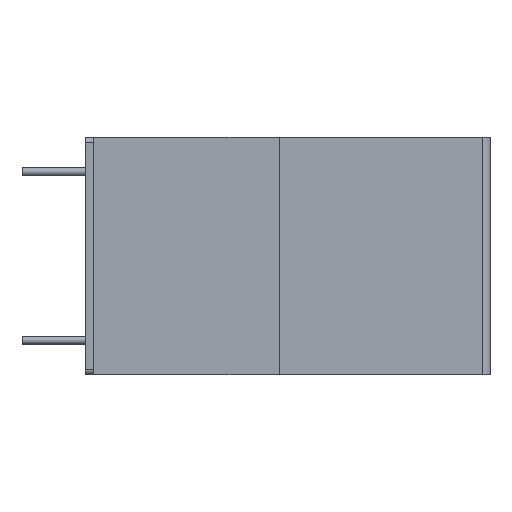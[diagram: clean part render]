
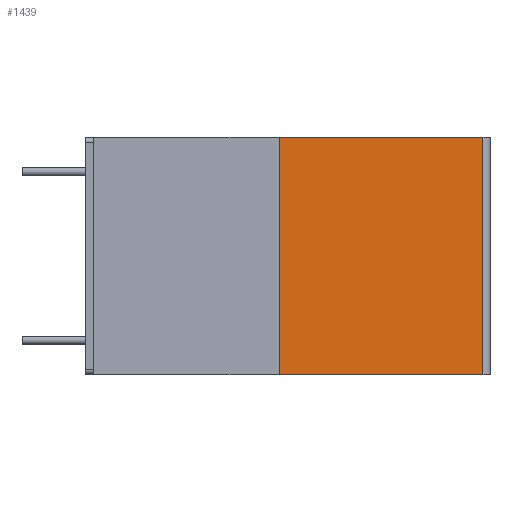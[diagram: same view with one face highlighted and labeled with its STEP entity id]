
A CAD part, left-side view. The second image highlights one B-rep face of the part: STEP entity #1439.
In plain terms, the highlighted planar face has unit normal (-1, -0.018, 0).
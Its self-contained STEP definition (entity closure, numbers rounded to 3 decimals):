
#41=PLANE('',#1553);
#89=FACE_OUTER_BOUND('',#170,.T.);
#170=EDGE_LOOP('',(#1007,#1008,#1009,#1010));
#355=LINE('',#2196,#479);
#365=LINE('',#2229,#489);
#381=LINE('',#2274,#505);
#382=LINE('',#2275,#506);
#479=VECTOR('',#1743,14.3);
#489=VECTOR('',#1771,12.274);
#505=VECTOR('',#1813,14.3);
#506=VECTOR('',#1814,12.274);
#615=VERTEX_POINT('',#2194);
#616=VERTEX_POINT('',#2195);
#629=VERTEX_POINT('',#2226);
#646=VERTEX_POINT('',#2273);
#749=EDGE_CURVE('',#615,#616,#355,.T.);
#765=EDGE_CURVE('',#616,#629,#365,.T.);
#793=EDGE_CURVE('',#646,#629,#381,.T.);
#794=EDGE_CURVE('',#615,#646,#382,.T.);
#1007=ORIENTED_EDGE('',*,*,#793,.F.);
#1008=ORIENTED_EDGE('',*,*,#794,.F.);
#1009=ORIENTED_EDGE('',*,*,#749,.T.);
#1010=ORIENTED_EDGE('',*,*,#765,.T.);
#1439=ADVANCED_FACE('',(#89),#41,.T.);
#1553=AXIS2_PLACEMENT_3D('',#2272,#1811,#1812);
#1743=DIRECTION('',(0.,0.,1.));
#1771=DIRECTION('',(-0.017,1.,0.));
#1811=DIRECTION('center_axis',(-1.,-0.017,0.));
#1812=DIRECTION('ref_axis',(0.017,-1.,0.));
#1813=DIRECTION('',(0.,0.,1.));
#1814=DIRECTION('',(-0.017,1.,0.));
#2194=CARTESIAN_POINT('',(-11.986,-23.972,-7.15));
#2195=CARTESIAN_POINT('',(-11.986,-23.972,7.15));
#2196=CARTESIAN_POINT('',(-11.986,-23.972,0.));
#2226=CARTESIAN_POINT('',(-12.2,-11.7,7.15));
#2229=CARTESIAN_POINT('',(-12.2,-11.7,7.15));
#2272=CARTESIAN_POINT('Origin',(-12.2,-11.7,0.));
#2273=CARTESIAN_POINT('',(-12.2,-11.7,-7.15));
#2274=CARTESIAN_POINT('',(-12.2,-11.7,0.));
#2275=CARTESIAN_POINT('',(-12.219,-10.6,-7.15));
